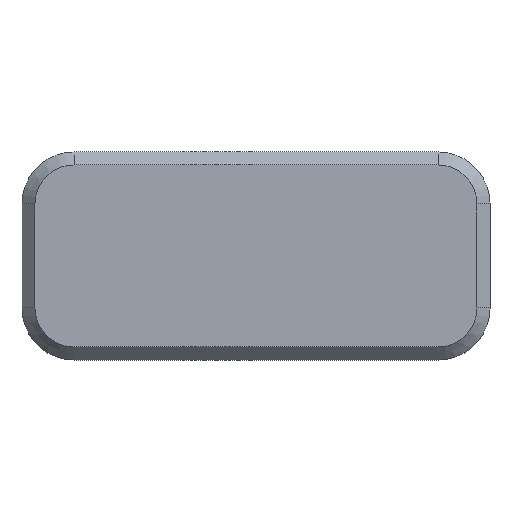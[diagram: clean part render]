
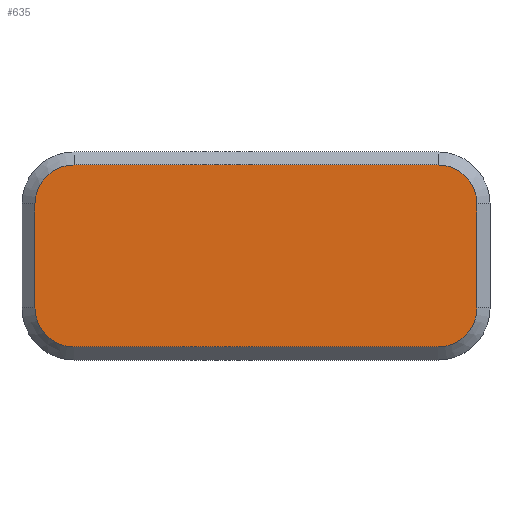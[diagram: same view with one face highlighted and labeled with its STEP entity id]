
A CAD part, top view. The second image highlights one B-rep face of the part: STEP entity #635.
In plain terms, the highlighted planar face has unit normal (0, 0, 1).
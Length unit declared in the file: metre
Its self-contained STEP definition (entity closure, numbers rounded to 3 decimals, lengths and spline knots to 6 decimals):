
#44=LINE('',#1007,#112);
#45=LINE('',#1011,#113);
#46=LINE('',#1015,#114);
#47=LINE('',#1019,#115);
#112=VECTOR('',#794,1.);
#113=VECTOR('',#797,1.);
#114=VECTOR('',#800,1.);
#115=VECTOR('',#803,1.);
#188=ORIENTED_EDGE('',*,*,#372,.T.);
#189=ORIENTED_EDGE('',*,*,#373,.T.);
#190=ORIENTED_EDGE('',*,*,#374,.T.);
#191=ORIENTED_EDGE('',*,*,#375,.T.);
#192=ORIENTED_EDGE('',*,*,#376,.T.);
#193=ORIENTED_EDGE('',*,*,#377,.T.);
#194=ORIENTED_EDGE('',*,*,#378,.T.);
#195=ORIENTED_EDGE('',*,*,#379,.T.);
#372=EDGE_CURVE('',#464,#465,#504,.F.);
#373=EDGE_CURVE('',#465,#466,#44,.T.);
#374=EDGE_CURVE('',#466,#467,#505,.F.);
#375=EDGE_CURVE('',#467,#468,#45,.T.);
#376=EDGE_CURVE('',#468,#469,#506,.F.);
#377=EDGE_CURVE('',#469,#470,#46,.T.);
#378=EDGE_CURVE('',#470,#471,#507,.F.);
#379=EDGE_CURVE('',#471,#464,#47,.T.);
#464=VERTEX_POINT('',#1005);
#465=VERTEX_POINT('',#1006);
#466=VERTEX_POINT('',#1008);
#467=VERTEX_POINT('',#1010);
#468=VERTEX_POINT('',#1012);
#469=VERTEX_POINT('',#1014);
#470=VERTEX_POINT('',#1016);
#471=VERTEX_POINT('',#1018);
#504=CIRCLE('',#698,0.0015);
#505=CIRCLE('',#699,0.0015);
#506=CIRCLE('',#700,0.0015);
#507=CIRCLE('',#701,0.0015);
#525=EDGE_LOOP('',(#188,#189,#190,#191,#192,#193,#194,#195));
#569=FACE_BOUND('',#525,.T.);
#610=PLANE('',#697);
#635=ADVANCED_FACE('',(#569),#610,.F.);
#697=AXIS2_PLACEMENT_3D('',#1003,#790,#791);
#698=AXIS2_PLACEMENT_3D('',#1004,#792,#793);
#699=AXIS2_PLACEMENT_3D('',#1009,#795,#796);
#700=AXIS2_PLACEMENT_3D('',#1013,#798,#799);
#701=AXIS2_PLACEMENT_3D('',#1017,#801,#802);
#790=DIRECTION('',(0.,0.,-1.));
#791=DIRECTION('',(0.,1.,0.));
#792=DIRECTION('',(0.,0.,-1.));
#793=DIRECTION('',(0.,1.,0.));
#794=DIRECTION('',(-1.,0.,0.));
#795=DIRECTION('',(0.,0.,-1.));
#796=DIRECTION('',(0.,1.,0.));
#797=DIRECTION('',(0.,-1.,0.));
#798=DIRECTION('',(0.,0.,-1.));
#799=DIRECTION('',(0.,1.,0.));
#800=DIRECTION('',(1.,0.,0.));
#801=DIRECTION('',(0.,0.,-1.));
#802=DIRECTION('',(0.,1.,0.));
#803=DIRECTION('',(0.,1.,0.));
#1003=CARTESIAN_POINT('',(0.006002,0.0145,0.01));
#1004=CARTESIAN_POINT('',(0.012,0.0145,0.01));
#1005=CARTESIAN_POINT('',(0.0135,0.0145,0.01));
#1006=CARTESIAN_POINT('',(0.012,0.016,0.01));
#1007=CARTESIAN_POINT('',(0.006002,0.016,0.01));
#1008=CARTESIAN_POINT('',(-0.002,0.016,0.01));
#1009=CARTESIAN_POINT('',(-0.002,0.0145,0.01));
#1010=CARTESIAN_POINT('',(-0.0035,0.0145,0.01));
#1011=CARTESIAN_POINT('',(-0.0035,0.0105,0.01));
#1012=CARTESIAN_POINT('',(-0.0035,0.0105,0.01));
#1013=CARTESIAN_POINT('',(-0.002,0.0105,0.01));
#1014=CARTESIAN_POINT('',(-0.002,0.009,0.01));
#1015=CARTESIAN_POINT('',(0.012,0.009,0.01));
#1016=CARTESIAN_POINT('',(0.012,0.009,0.01));
#1017=CARTESIAN_POINT('',(0.012,0.0105,0.01));
#1018=CARTESIAN_POINT('',(0.0135,0.0105,0.01));
#1019=CARTESIAN_POINT('',(0.0135,0.0145,0.01));
